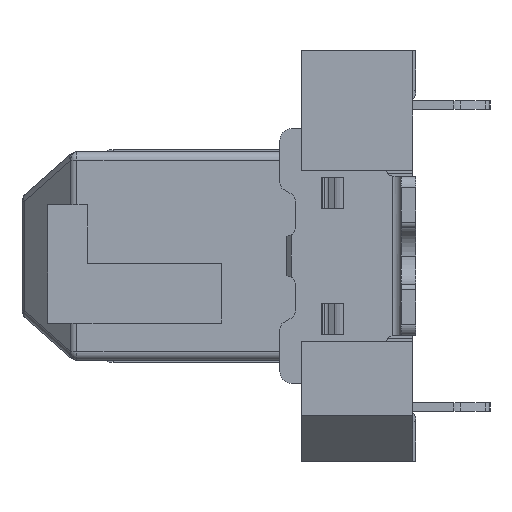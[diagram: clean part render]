
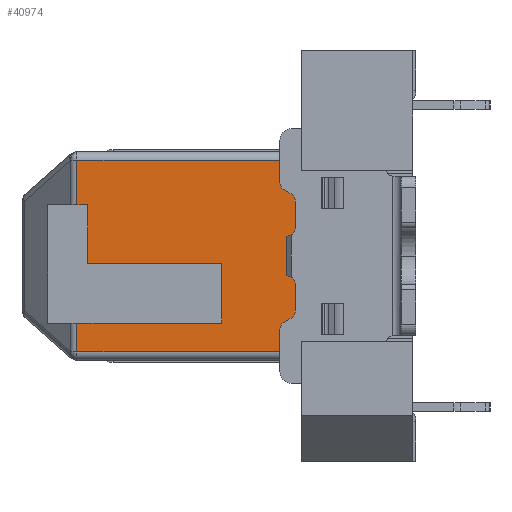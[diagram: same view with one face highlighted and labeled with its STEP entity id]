
A CAD part, left-side view. The second image highlights one B-rep face of the part: STEP entity #40974.
In plain terms, the highlighted planar face has unit normal (-1, 0, 0).
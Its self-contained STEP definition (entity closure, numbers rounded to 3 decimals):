
#2694 = CARTESIAN_POINT ( 'NONE',  ( -13.23, 7.888, -1.675 ) ) ;
#8000 = VECTOR ( 'NONE', #40418, 1000. ) ;
#9655 = VERTEX_POINT ( 'NONE', #52469 ) ;
#9772 = FACE_OUTER_BOUND ( 'NONE', #105401, .T. ) ;
#13148 = VERTEX_POINT ( 'NONE', #148280 ) ;
#19138 = DIRECTION ( 'NONE',  ( 0., 0., 1. ) ) ;
#19554 = LINE ( 'NONE', #138210, #128981 ) ;
#20631 = CARTESIAN_POINT ( 'NONE',  ( -13.23, 7.888, 1.675 ) ) ;
#23091 = VERTEX_POINT ( 'NONE', #20631 ) ;
#29826 = CARTESIAN_POINT ( 'NONE',  ( -13.23, 7.7, -0.125 ) ) ;
#30996 = VECTOR ( 'NONE', #124144, 1000. ) ;
#36856 = ORIENTED_EDGE ( 'NONE', *, *, #149404, .T. ) ;
#40418 = DIRECTION ( 'NONE',  ( 0., 0., -1. ) ) ;
#40974 = ADVANCED_FACE ( 'NONE', ( #9772 ), #106078, .F. ) ;
#41158 = DIRECTION ( 'NONE',  ( 0., 1., 0. ) ) ;
#44192 = CARTESIAN_POINT ( 'NONE',  ( -13.23, 7.888, -1.175 ) ) ;
#49026 = ORIENTED_EDGE ( 'NONE', *, *, #106619, .F. ) ;
#49312 = CARTESIAN_POINT ( 'NONE',  ( -13.23, 7.7, 0.895 ) ) ;
#50057 = LINE ( 'NONE', #49312, #86618 ) ;
#50088 = EDGE_CURVE ( 'NONE', #107011, #106316, #113770, .T. ) ;
#50912 = VECTOR ( 'NONE', #91205, 1000. ) ;
#52469 = CARTESIAN_POINT ( 'NONE',  ( -13.23, 3.95, -1.675 ) ) ;
#53063 = CARTESIAN_POINT ( 'NONE',  ( -13.23, 3.95, -1.675 ) ) ;
#53360 = LINE ( 'NONE', #98886, #88401 ) ;
#53835 = LINE ( 'NONE', #53063, #129542 ) ;
#54018 = CARTESIAN_POINT ( 'NONE',  ( -13.23, 5.35, -0.125 ) ) ;
#54758 = VECTOR ( 'NONE', #77575, 1000. ) ;
#56791 = DIRECTION ( 'NONE',  ( 0., 1., 0. ) ) ;
#58415 = CARTESIAN_POINT ( 'NONE',  ( -13.23, 7.7, -0.125 ) ) ;
#59185 = VERTEX_POINT ( 'NONE', #117673 ) ;
#59958 = EDGE_CURVE ( 'NONE', #23091, #116652, #105747, .T. ) ;
#67469 = EDGE_CURVE ( 'NONE', #106380, #9655, #53360, .T. ) ;
#69877 = DIRECTION ( 'NONE',  ( 1., 0., 0. ) ) ;
#71848 = CARTESIAN_POINT ( 'NONE',  ( -13.23, 7.888, 1.675 ) ) ;
#73969 = VECTOR ( 'NONE', #94787, 1000. ) ;
#77575 = DIRECTION ( 'NONE',  ( 0., -1., 0. ) ) ;
#77728 = ORIENTED_EDGE ( 'NONE', *, *, #133780, .T. ) ;
#79608 = EDGE_CURVE ( 'NONE', #59185, #13148, #149742, .T. ) ;
#80926 = VECTOR ( 'NONE', #106514, 1000. ) ;
#86487 = ORIENTED_EDGE ( 'NONE', *, *, #149092, .T. ) ;
#86618 = VECTOR ( 'NONE', #96337, 1000. ) ;
#88401 = VECTOR ( 'NONE', #122753, 1000. ) ;
#91205 = DIRECTION ( 'NONE',  ( 0., -1., 0. ) ) ;
#94787 = DIRECTION ( 'NONE',  ( 0., 1., 0. ) ) ;
#95193 = CARTESIAN_POINT ( 'NONE',  ( -13.23, 5.35, -0.125 ) ) ;
#96337 = DIRECTION ( 'NONE',  ( 0., 0., -1. ) ) ;
#98886 = CARTESIAN_POINT ( 'NONE',  ( -13.23, 7.888, -1.675 ) ) ;
#103091 = CARTESIAN_POINT ( 'NONE',  ( -13.23, 7.7, 0.895 ) ) ;
#105401 = EDGE_LOOP ( 'NONE', ( #112211, #86487, #138768, #145151, #136199, #36856, #77728, #132250, #49026, #142548 ) ) ;
#105747 = LINE ( 'NONE', #71848, #80926 ) ;
#105903 = AXIS2_PLACEMENT_3D ( 'NONE', #126903, #69877, #56791 ) ;
#106078 = PLANE ( 'NONE',  #105903 ) ;
#106316 = VERTEX_POINT ( 'NONE', #95193 ) ;
#106380 = VERTEX_POINT ( 'NONE', #2694 ) ;
#106514 = DIRECTION ( 'NONE',  ( 0., 0., -1. ) ) ;
#106619 = EDGE_CURVE ( 'NONE', #122533, #116652, #19554, .T. ) ;
#107011 = VERTEX_POINT ( 'NONE', #58415 ) ;
#112211 = ORIENTED_EDGE ( 'NONE', *, *, #50088, .T. ) ;
#113770 = LINE ( 'NONE', #29826, #54758 ) ;
#116652 = VERTEX_POINT ( 'NONE', #147541 ) ;
#117673 = CARTESIAN_POINT ( 'NONE',  ( -13.23, 7.888, -1.175 ) ) ;
#119004 = VERTEX_POINT ( 'NONE', #136358 ) ;
#122533 = VERTEX_POINT ( 'NONE', #103091 ) ;
#122753 = DIRECTION ( 'NONE',  ( 0., -1., 0. ) ) ;
#123623 = CARTESIAN_POINT ( 'NONE',  ( -13.23, 7.888, -1.175 ) ) ;
#124144 = DIRECTION ( 'NONE',  ( 0., 0., -1. ) ) ;
#124892 = LINE ( 'NONE', #54018, #30996 ) ;
#126903 = CARTESIAN_POINT ( 'NONE',  ( -13.23, 3.95, -3.6 ) ) ;
#127175 = CARTESIAN_POINT ( 'NONE',  ( -13.23, 3.95, 1.675 ) ) ;
#128981 = VECTOR ( 'NONE', #41158, 1000. ) ;
#129542 = VECTOR ( 'NONE', #19138, 1000. ) ;
#131568 = LINE ( 'NONE', #123623, #8000 ) ;
#132250 = ORIENTED_EDGE ( 'NONE', *, *, #59958, .T. ) ;
#133780 = EDGE_CURVE ( 'NONE', #119004, #23091, #150320, .T. ) ;
#135153 = EDGE_CURVE ( 'NONE', #122533, #107011, #50057, .T. ) ;
#136199 = ORIENTED_EDGE ( 'NONE', *, *, #67469, .T. ) ;
#136358 = CARTESIAN_POINT ( 'NONE',  ( -13.23, 3.95, 1.675 ) ) ;
#138210 = CARTESIAN_POINT ( 'NONE',  ( -13.23, 7.7, 0.895 ) ) ;
#138768 = ORIENTED_EDGE ( 'NONE', *, *, #79608, .F. ) ;
#142548 = ORIENTED_EDGE ( 'NONE', *, *, #135153, .T. ) ;
#145151 = ORIENTED_EDGE ( 'NONE', *, *, #145272, .T. ) ;
#145272 = EDGE_CURVE ( 'NONE', #59185, #106380, #131568, .T. ) ;
#147541 = CARTESIAN_POINT ( 'NONE',  ( -13.23, 7.888, 0.895 ) ) ;
#148280 = CARTESIAN_POINT ( 'NONE',  ( -13.23, 5.35, -1.175 ) ) ;
#149092 = EDGE_CURVE ( 'NONE', #106316, #13148, #124892, .T. ) ;
#149404 = EDGE_CURVE ( 'NONE', #9655, #119004, #53835, .T. ) ;
#149742 = LINE ( 'NONE', #44192, #50912 ) ;
#150320 = LINE ( 'NONE', #127175, #73969 ) ;
